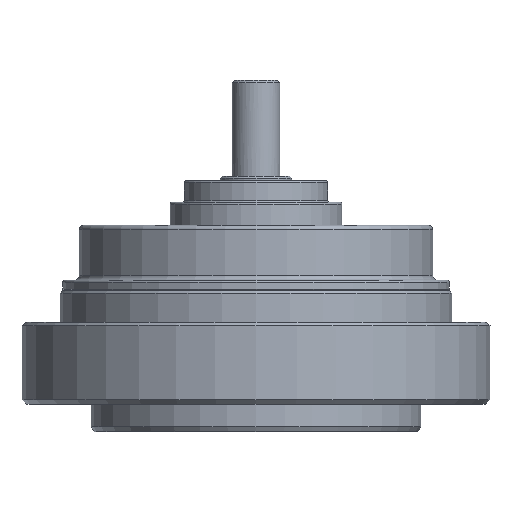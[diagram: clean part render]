
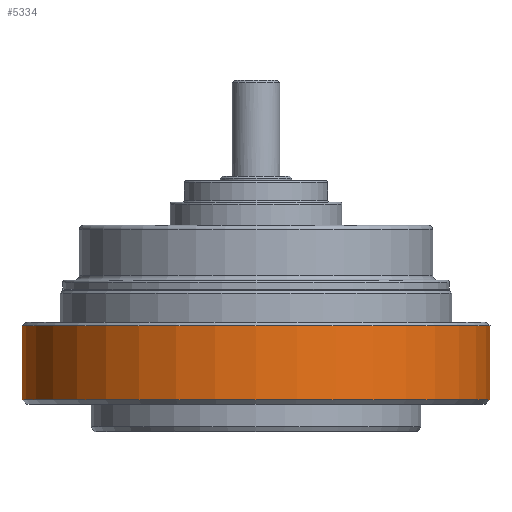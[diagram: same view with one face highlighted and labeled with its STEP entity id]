
A CAD part, front view. The second image highlights one B-rep face of the part: STEP entity #5334.
In plain terms, the highlighted cylindrical face has radius 49 mm (diameter 98 mm), a full revolution.
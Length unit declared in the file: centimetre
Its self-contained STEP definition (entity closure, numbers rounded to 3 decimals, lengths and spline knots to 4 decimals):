
#244=FACE_BOUND('',#1725,.T.);
#776=CIRCLE('',#5951,4.9);
#779=CIRCLE('',#5955,4.9);
#921=CYLINDRICAL_SURFACE('',#5956,4.9);
#1163=FACE_OUTER_BOUND('',#1724,.T.);
#1724=EDGE_LOOP('',(#4224));
#1725=EDGE_LOOP('',(#4225));
#2756=VERTEX_POINT('',#8783);
#2759=VERTEX_POINT('',#8790);
#3307=EDGE_CURVE('',#2756,#2756,#776,.T.);
#3310=EDGE_CURVE('',#2759,#2759,#779,.T.);
#4224=ORIENTED_EDGE('',*,*,#3310,.T.);
#4225=ORIENTED_EDGE('',*,*,#3307,.T.);
#5334=ADVANCED_FACE('',(#1163,#244),#921,.T.);
#5951=AXIS2_PLACEMENT_3D('',#8784,#7207,#7208);
#5955=AXIS2_PLACEMENT_3D('',#8791,#7215,#7216);
#5956=AXIS2_PLACEMENT_3D('',#8792,#7217,#7218);
#7207=DIRECTION('center_axis',(0.,0.,-1.));
#7208=DIRECTION('ref_axis',(1.,0.,0.));
#7215=DIRECTION('center_axis',(0.,0.,1.));
#7216=DIRECTION('ref_axis',(-1.,0.,0.));
#7217=DIRECTION('center_axis',(0.,0.,-1.));
#7218=DIRECTION('ref_axis',(1.,0.,0.));
#8783=CARTESIAN_POINT('',(-4.9,0.,2.21));
#8784=CARTESIAN_POINT('Origin',(0.,0.,2.21));
#8790=CARTESIAN_POINT('',(-4.9,0.,0.67));
#8791=CARTESIAN_POINT('Origin',(0.,0.,0.67));
#8792=CARTESIAN_POINT('Origin',(0.,0.,1.355));
